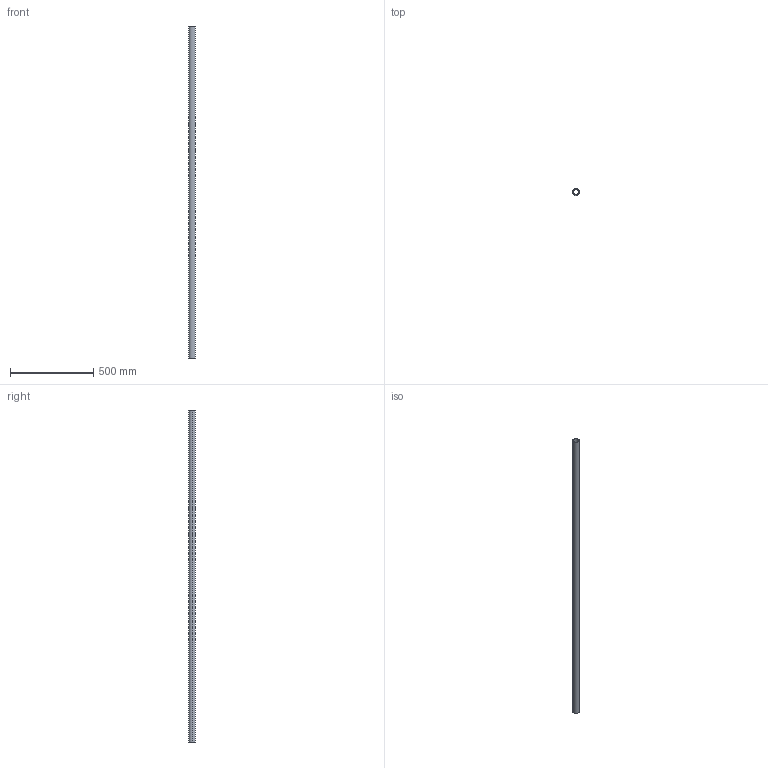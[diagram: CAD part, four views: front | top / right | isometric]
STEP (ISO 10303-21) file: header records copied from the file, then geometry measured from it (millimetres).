
FILE_DESCRIPTION (( 'STEP AP214' ), '1' );
FILE_NAME ('PCT40-2000.STEP', '2022-12-13T01:43:23', ( '' ), ( '' ), 'SwSTEP 2.0', 'SolidWorks 2018', '' );
FILE_SCHEMA (( 'AUTOMOTIVE_DESIGN' ));
Length unit declared in the file: millimetre
Products named in the file (1): PCT40-2000
Bounding box: 40 x 40 x 2000 mm (x, y, z)
Volume: 589048.6 mm3; surface area: 471827.9 mm2
Topology: 1 solids, 1 shells, 6 faces, 12 edges, 8 vertices
Faces by surface type: cylinder 4, plane 2
Entity records: 202 total; most frequent: DIRECTION 34, CARTESIAN_POINT 27, ORIENTED_EDGE 24, AXIS2_PLACEMENT_3D 15, EDGE_CURVE 12, EDGE_LOOP 8, VERTEX_POINT 8, CIRCLE 8
